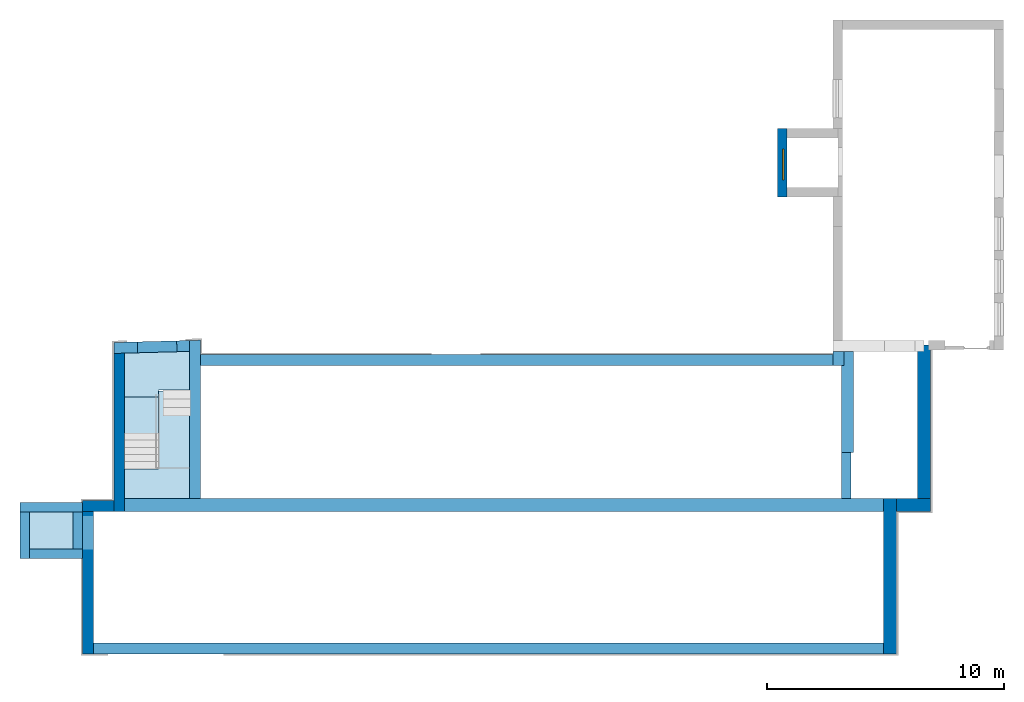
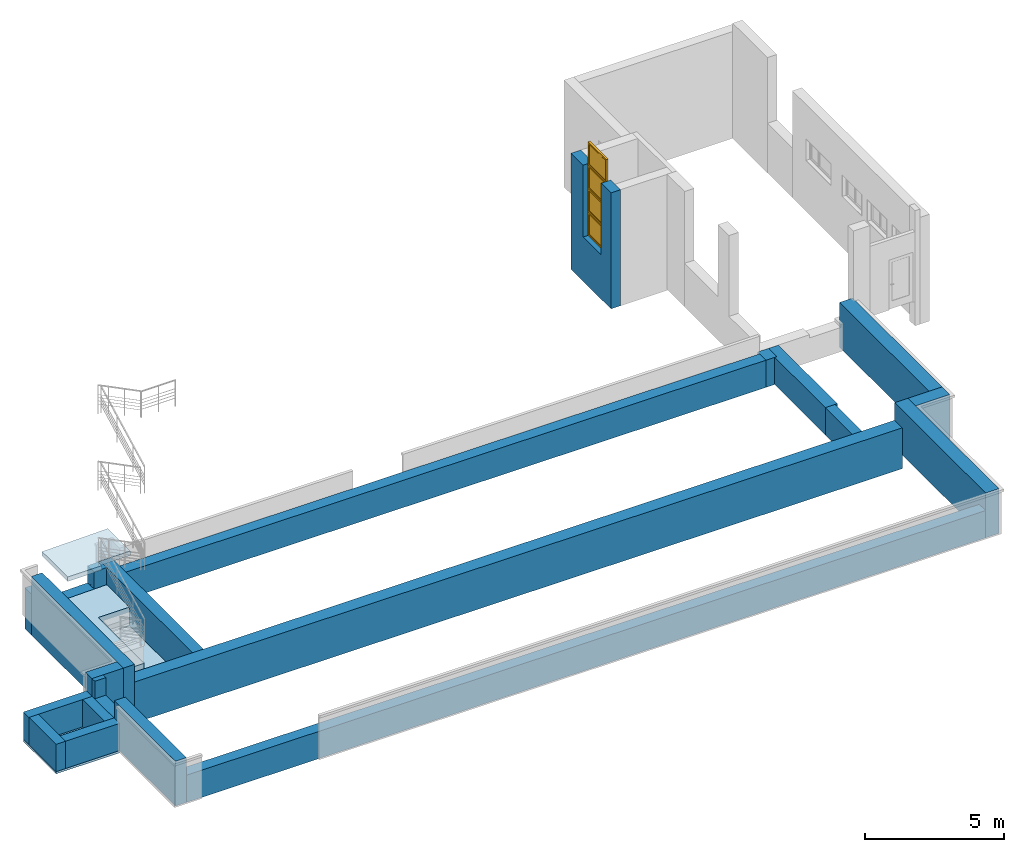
"""IFC2X3 building model written with IfcOpenShell, lengths in millimetres."""

import ifcopenshell
import ifcopenshell.guid

model = None  # the IFC model being written
_history = None  # IfcOwnerHistory: only IFC2X3 demands one
_inside = {}  # id of a spatial element -> (the spatial element, [elements in it])
_under = {}  # id of a project, library or spatial element -> (it, [spatial elements below it])
_declared = {}  # id of a project -> (the project, [libraries it declares])
_typed = {}  # id of a type object -> (the type object, [elements of that type])
_made_of = {}  # id of a material, layer set ... -> (it, [elements and type objects made of it])


def new_model(schema):
    """Start an empty IFC model of exactly this schema.

    Asked for "IFC4X3", IfcOpenShell would pick the latest addendum, in which some entities
    have other attributes; the version numbers below select the first issue.
    IFC2X3 requires an IfcOwnerHistory on every rooted entity: one is made here for all.
    """
    global model, _history
    if schema == "IFC4X3":
        model = ifcopenshell.file(schema_version=(4, 3, 0, 0))
    else:
        model = ifcopenshell.file(schema=schema)
    _inside.clear()
    _under.clear()
    _declared.clear()
    _typed.clear()
    _made_of.clear()
    _history = None
    if model.schema == "IFC2X3":
        org = make("IfcOrganization", Name="unknown")
        user = make(
            "IfcPersonAndOrganization",
            ThePerson=make("IfcPerson", FamilyName="unknown"),
            TheOrganization=org,
        )
        app = make(
            "IfcApplication",
            ApplicationDeveloper=org,
            Version="unknown",
            ApplicationFullName="unknown",
            ApplicationIdentifier="unknown",
        )
        _history = make(
            "IfcOwnerHistory",
            OwningUser=user,
            OwningApplication=app,
            ChangeAction="ADDED",
            CreationDate=0,
        )
    return model


def make(cls, **values):
    """One entity of the class cls with the attributes given. An attribute that is None is left unset."""
    return model.create_entity(
        cls, **{name: value for name, value in values.items() if value is not None}
    )


def entity(cls, *values):
    """Any entity or typed value of the class cls, its attributes in the order of the schema. None: left unset."""
    e = model.create_entity(cls)
    for i, value in enumerate(values):
        if value is not None:
            e[i] = value
    return e


def rooted(cls, **values):
    """An entity with a GlobalId (a new one), such as an element, a storey or a relation."""
    return make(cls, GlobalId=ifcopenshell.guid.new(), OwnerHistory=_history, **values)


def si_unit(unit_type, name, prefix=None):
    """IfcSIUnit, for example si_unit("LENGTHUNIT", "METRE", prefix="MILLI")."""
    return make("IfcSIUnit", UnitType=unit_type, Prefix=prefix, Name=name)


def converted_unit(unit_type, name, factor, base, dimensions=None, offset=None):
    """IfcConversionBasedUnit, such as the inch: factor (a typed value) times the base unit."""
    return make(
        "IfcConversionBasedUnit"
        if offset is None
        else "IfcConversionBasedUnitWithOffset",
        ConversionOffset=offset,
        Dimensions=None
        if dimensions is None
        else entity("IfcDimensionalExponents", *dimensions),
        UnitType=unit_type,
        Name=name,
        ConversionFactor=make(
            "IfcMeasureWithUnit", ValueComponent=factor, UnitComponent=base
        ),
    )


def derived_unit(unit_type, elements):
    """IfcDerivedUnit: a product of units, each with its exponent."""
    return make(
        "IfcDerivedUnit",
        Elements=[
            make("IfcDerivedUnitElement", Unit=unit, Exponent=power)
            for unit, power in elements
        ],
        UnitType=unit_type,
    )


def assignment(units):
    """IfcUnitAssignment: the units of a project."""
    return None if units is None else make("IfcUnitAssignment", Units=units)


def point(xyz):
    """IfcCartesianPoint."""
    return None if xyz is None else make("IfcCartesianPoint", Coordinates=xyz)


def direction(xyz):
    """IfcDirection."""
    return None if xyz is None else make("IfcDirection", DirectionRatios=xyz)


def frame(location, z_axis=None, x_axis=None):
    """IfcAxis2Placement3D, a coordinate frame: its origin and axes. An axis left out is left unset."""
    return make(
        "IfcAxis2Placement3D",
        Location=point(location),
        Axis=direction(z_axis),
        RefDirection=direction(x_axis),
    )


def frame_2d(location, x_axis=None):
    """IfcAxis2Placement2D, a coordinate frame in the plane: its origin and x axis."""
    return make(
        "IfcAxis2Placement2D", Location=point(location), RefDirection=direction(x_axis)
    )


def origin():
    """The frame at (0, 0, 0) with its axes left unset."""
    return frame((0.0, 0.0, 0.0))


def origin_2d_with_axis():
    """The frame at (0, 0) in the plane with the x axis (1, 0) written out."""
    return frame_2d((0.0, 0.0), x_axis=(1.0, 0.0))


def place(relative_to, where):
    """IfcLocalPlacement: puts the frame where relative to a parent placement (None: the world)."""
    return make(
        "IfcLocalPlacement", PlacementRelTo=relative_to, RelativePlacement=where
    )


def context(
    kind, dimensions, precision=None, world=None, true_north=None, identifier=None
):
    """IfcGeometricRepresentationContext, for example the 3D "Model" context."""
    return make(
        "IfcGeometricRepresentationContext",
        ContextIdentifier=identifier,
        ContextType=kind,
        CoordinateSpaceDimension=dimensions,
        Precision=precision,
        WorldCoordinateSystem=world,
        TrueNorth=true_north,
    )


def subcontext(parent, identifier, kind, view, scale=None):
    """IfcGeometricRepresentationSubContext, for example "Body" below "Model"."""
    return make(
        "IfcGeometricRepresentationSubContext",
        ContextIdentifier=identifier,
        ContextType=kind,
        ParentContext=parent,
        TargetScale=scale,
        TargetView=view,
    )


def project(units=None, contexts=None):
    """IfcProject with its units and contexts."""
    return rooted(
        "IfcProject",
        Name="project",
        RepresentationContexts=contexts,
        UnitsInContext=assignment(units),
    )


def spatial(cls, under=None, at=None, **own):
    """A site, building, storey or space (cls), placed at a placement, below another one or the project."""
    s = rooted(cls, ObjectPlacement=at, **own)
    if under is not None:
        _under.setdefault(under.id(), (under, []))[1].append(s)
    return s


def polyline(points):
    """IfcPolyline through the points."""
    return make("IfcPolyline", Points=[point(p) for p in points])


def profile(cls, at=None, kind="AREA", **sizes):
    """A parametric profile (cls). Its sizes go by their IFC names, for example OverallWidth=200.0."""
    return make(cls, ProfileType=kind, Position=at, **sizes)


def rectangle(**sizes):
    """IfcRectangleProfileDef."""
    return profile("IfcRectangleProfileDef", **sizes)


def outline(outer, holes=None, kind="AREA"):
    """IfcArbitraryClosedProfileDef: a profile drawn as a closed curve; with holes, ...WithVoids."""
    if holes is None:
        return make("IfcArbitraryClosedProfileDef", ProfileType=kind, OuterCurve=outer)
    return make(
        "IfcArbitraryProfileDefWithVoids",
        ProfileType=kind,
        OuterCurve=outer,
        InnerCurves=holes,
    )


def extrude(swept, where, along, depth):
    """IfcExtrudedAreaSolid: the profile swept, set in the frame where, extruded along a direction by depth."""
    return make(
        "IfcExtrudedAreaSolid",
        SweptArea=swept,
        Position=where,
        ExtrudedDirection=direction(along),
        Depth=depth,
    )


def faces_of(points, faces, orient=None, outer=None):
    """IfcFace entities. A face is a list of loops; a loop is a list of indices into points, from 0.

    orient and outer hold one flag for each loop. By default every Orientation is true, the
    first loop of a face is its IfcFaceOuterBound and the others are IfcFaceBound.
    """
    made = []
    for i, loops in enumerate(faces):
        bounds = []
        for j, loop in enumerate(loops):
            is_outer = j == 0 if outer is None else outer[i][j]
            bounds.append(
                make(
                    "IfcFaceOuterBound" if is_outer else "IfcFaceBound",
                    Bound=make("IfcPolyLoop", Polygon=[points[k] for k in loop]),
                    Orientation=True if orient is None else orient[i][j],
                )
            )
        made.append(make("IfcFace", Bounds=bounds))
    return made


def faceted_brep(points, faces, orient=None, outer=None, voids=None):
    """IfcFacetedBrep: a solid bounded by flat faces; with voids (closed shells), ...WithVoids."""
    shared = [point(p) for p in points]
    hull = make("IfcClosedShell", CfsFaces=faces_of(shared, faces, orient, outer))
    if voids is None:
        return make("IfcFacetedBrep", Outer=hull)
    return make(
        "IfcFacetedBrepWithVoids",
        Outer=hull,
        Voids=[
            make(cls, CfsFaces=faces_of(shared, fs, o, b)) for cls, fs, o, b in voids
        ],
    )


def shape(context_of_items, identifier, shape_type, items):
    """IfcShapeRepresentation: the items that make up one representation, for example the "Body"."""
    return make(
        "IfcShapeRepresentation",
        ContextOfItems=context_of_items,
        RepresentationIdentifier=identifier,
        RepresentationType=shape_type,
        Items=items,
    )


def source(mapping_origin, context_of_items, identifier, shape_type, items):
    """IfcRepresentationMap: a shape defined once, which mapped items show again and again."""
    return make(
        "IfcRepresentationMap",
        MappingOrigin=mapping_origin,
        MappedRepresentation=shape(context_of_items, identifier, shape_type, items),
    )


def transform(
    local_origin,
    x_axis=None,
    y_axis=None,
    z_axis=None,
    scale=None,
    scale2=None,
    scale3=None,
    uniform=True,
):
    """IfcCartesianTransformationOperator3D, or its non-uniform kind. x_axis, y_axis, z_axis: its Axis1, 2, 3."""
    if uniform:
        return make(
            "IfcCartesianTransformationOperator3D",
            Axis1=direction(x_axis),
            Axis2=direction(y_axis),
            LocalOrigin=point(local_origin),
            Scale=scale,
            Axis3=direction(z_axis),
        )
    return make(
        "IfcCartesianTransformationOperator3DnonUniform",
        Axis1=direction(x_axis),
        Axis2=direction(y_axis),
        LocalOrigin=point(local_origin),
        Scale=scale,
        Axis3=direction(z_axis),
        Scale2=scale2,
        Scale3=scale3,
    )


def mapped(mapping_source, mapping_target):
    """IfcMappedItem: shows the shape of a source again, moved by a transform."""
    return make(
        "IfcMappedItem", MappingSource=mapping_source, MappingTarget=mapping_target
    )


def material(Name=None, Category=None):
    """IfcMaterial."""
    return make("IfcMaterial", Name=Name, Category=Category)


def material_list(materials):
    """IfcMaterialList."""
    return make("IfcMaterialList", Materials=materials)


def layer(
    of_material, thickness, ventilated=None, Name=None, Category=None, Priority=None
):
    """IfcMaterialLayer: one layer of a wall or slab, of a material (None: an air gap)."""
    return make(
        "IfcMaterialLayer",
        Material=of_material,
        LayerThickness=thickness,
        IsVentilated=ventilated,
        Name=Name,
        Category=Category,
        Priority=Priority,
    )


def layer_set(layers, Name=None):
    """IfcMaterialLayerSet."""
    return make("IfcMaterialLayerSet", MaterialLayers=layers, LayerSetName=Name)


def layer_usage(for_layer_set, set_direction, sense, offset, extent=None):
    """IfcMaterialLayerSetUsage: how a layer set lies in its element."""
    return make(
        "IfcMaterialLayerSetUsage",
        ForLayerSet=for_layer_set,
        LayerSetDirection=set_direction,
        DirectionSense=sense,
        OffsetFromReferenceLine=offset,
        ReferenceExtent=extent,
    )


def made_of(thing, what):
    """Note that an element or type object is made of a material, layer set ...; save() writes the relation."""
    if what is not None:
        _made_of.setdefault(what.id(), (what, []))[1].append(thing)
    return thing


def type_object(cls, material=None, **own):
    """A type object (cls), such as IfcWallType, which elements share."""
    return made_of(rooted(cls, **own), material)


def type_shapes(of_type, sources):
    """Give a type object the sources (RepresentationMaps) that its elements show as mapped items."""
    of_type.RepresentationMaps = sources


def element(
    cls,
    number,
    at=None,
    inside=None,
    cuts=None,
    type_object=None,
    material=None,
    context=None,
    identifier="Body",
    shape_type=None,
    held_by="IfcProductDefinitionShape",
    body=None,
    shapes=None,
    **own,
):
    """One element of the class cls, such as IfcWall. Its Tag is "e" and its number.

    at: its placement. inside: the storey or other place that contains it. cuts: it is an
    opening in that element (IfcRelVoidsElement). A single representation is given by context,
    identifier, shape_type and body (its items); several are given by shapes. held_by: the class
    of the entity that holds the representations. save() writes the other relations.
    """
    e = rooted(cls, Tag="e%d" % number, ObjectPlacement=at, **own)
    if body is not None:
        shapes = [shape(context, identifier, shape_type, body)]
    if shapes is not None:
        e.Representation = make(held_by, Representations=shapes)
    if inside is not None:
        _inside.setdefault(inside.id(), (inside, []))[1].append(e)
    if cuts is not None:
        rooted(
            "IfcRelVoidsElement", RelatingBuildingElement=cuts, RelatedOpeningElement=e
        )
    if type_object is not None:
        _typed.setdefault(type_object.id(), (type_object, []))[1].append(e)
    return made_of(e, material)


def fill(opening, filler):
    """IfcRelFillsElement: the door or window that sits in an opening."""
    return rooted(
        "IfcRelFillsElement",
        RelatingOpeningElement=opening,
        RelatedBuildingElement=filler,
    )


def aggregate(whole, parts):
    """IfcRelAggregates: a whole, such as a stair, and the parts it consists of."""
    return rooted("IfcRelAggregates", RelatingObject=whole, RelatedObjects=parts)


def save(model, path):
    """Write the relations noted so far, then the file.

    IfcRelAggregates (storeys below a building ...), IfcRelContainedInSpatialStructure (elements
    in a storey), IfcRelDefinesByType, IfcRelAssociatesMaterial and IfcRelDeclares: one each for
    every whole, place, type object, material and project.
    """
    for whole, parts in _under.values():
        aggregate(whole, parts)
    for where, things in _inside.values():
        rooted(
            "IfcRelContainedInSpatialStructure",
            RelatedElements=things,
            RelatingStructure=where,
        )
    for kind, things in _typed.values():
        rooted("IfcRelDefinesByType", RelatedObjects=things, RelatingType=kind)
    for what, things in _made_of.values():
        rooted("IfcRelAssociatesMaterial", RelatedObjects=things, RelatingMaterial=what)
    for by, libraries in _declared.values():
        rooted("IfcRelDeclares", RelatingContext=by, RelatedDefinitions=libraries)
    model.write(path)


model = new_model("IFC2X3")

# Units and contexts
model_context = context("Model", 3, precision=0.01, world=origin(), true_north=direction((6.12303176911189e-17, 1.0)))
body_context = subcontext(model_context, "Body", "Model", "MODEL_VIEW")
ifc_project = project(units=[si_unit("LENGTHUNIT", "METRE", prefix="MILLI"), si_unit("AREAUNIT", "SQUARE_METRE"), si_unit("VOLUMEUNIT", "CUBIC_METRE"), converted_unit("PLANEANGLEUNIT", "DEGREE", entity("IfcRatioMeasure", 0.0174532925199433), si_unit("PLANEANGLEUNIT", "RADIAN"), dimensions=[0, 0, 0, 0, 0, 0, 0]), si_unit("MASSUNIT", "GRAM", prefix="KILO"), derived_unit("MASSDENSITYUNIT", [(si_unit("MASSUNIT", "GRAM", prefix="KILO"), 1), (si_unit("LENGTHUNIT", "METRE"), -3)]), si_unit("TIMEUNIT", "SECOND"), si_unit("FREQUENCYUNIT", "HERTZ"), si_unit("THERMODYNAMICTEMPERATUREUNIT", "DEGREE_CELSIUS"), derived_unit("THERMALTRANSMITTANCEUNIT", [(si_unit("MASSUNIT", "GRAM", prefix="KILO"), 1), (si_unit("THERMODYNAMICTEMPERATUREUNIT", "KELVIN"), -1), (si_unit("TIMEUNIT", "SECOND"), -3)]), derived_unit("VOLUMETRICFLOWRATEUNIT", [(si_unit("LENGTHUNIT", "METRE"), 3), (si_unit("TIMEUNIT", "SECOND"), -1)]), si_unit("ELECTRICCURRENTUNIT", "AMPERE"), si_unit("ELECTRICVOLTAGEUNIT", "VOLT"), si_unit("POWERUNIT", "WATT"), si_unit("FORCEUNIT", "NEWTON", prefix="KILO"), si_unit("ILLUMINANCEUNIT", "LUX"), si_unit("LUMINOUSFLUXUNIT", "LUMEN"), si_unit("LUMINOUSINTENSITYUNIT", "CANDELA"), derived_unit("USERDEFINED", [(si_unit("MASSUNIT", "GRAM", prefix="KILO"), -1), (si_unit("LENGTHUNIT", "METRE"), -2), (si_unit("TIMEUNIT", "SECOND"), 3), (si_unit("LUMINOUSFLUXUNIT", "LUMEN"), 1)]), derived_unit("LINEARVELOCITYUNIT", [(si_unit("LENGTHUNIT", "METRE"), 1), (si_unit("TIMEUNIT", "SECOND"), -1)]), si_unit("PRESSUREUNIT", "PASCAL"), derived_unit("USERDEFINED", [(si_unit("LENGTHUNIT", "METRE"), -2), (si_unit("MASSUNIT", "GRAM", prefix="KILO"), 1), (si_unit("TIMEUNIT", "SECOND"), -2)])], contexts=[model_context])

# Site, building, storey
site_placement = place(None, frame((-151.875543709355, 2715.0, 0.0)))
site = spatial("IfcSite", under=ifc_project, at=site_placement, Name="Surface", CompositionType="ELEMENT")
building_placement = place(site_placement, origin())
building = spatial("IfcBuilding", under=site, at=building_placement, CompositionType="ELEMENT")
storey_1_placement = place(building_placement, frame((0.0, 0.0, -1200.0)))
storey_1 = spatial("IfcBuildingStorey", under=building, at=storey_1_placement, Name="Vundament", CompositionType="ELEMENT", Elevation=-1199.99999999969)

# Slabs
ifc_material_1 = material(Name="Betoonplaat")
ifc_layer_1 = layer(ifc_material_1, 195.0)
ifc_layer_set_1 = layer_set([ifc_layer_1], Name="Floor:Trepimade3")
ifc_layer_usage_1 = layer_usage(ifc_layer_set_1, "AXIS3", "POSITIVE", 0.0)
slab_1_placement = place(storey_1_placement, origin())
element("IfcSlab", 1, at=slab_1_placement, inside=storey_1, material=ifc_layer_usage_1, Name="Floor:Trepimade3", ObjectType="Floor:Trepimade3", PredefinedType="FLOOR", context=body_context, shape_type="SweptSolid", body=[
    extrude(outline(polyline([(-721.694663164, -1400.30014640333), (1121.029816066, -1400.30014640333), (1195.485642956, 1369.82529333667), (-436.563066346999, 1370.00631353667), (-436.563066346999, 30.3843429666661), (-721.694663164, 30.3843429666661), (-721.694663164, -1400.30014640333)])), frame((3170.30014640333, 11553.770926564, 2900.0), z_axis=(0.0, 0.0, -1.0), x_axis=(0.0, 1.0, 0.0)), (0.0, 0.0, 1.0), 195.0),
])
ifc_layer_2 = layer(ifc_material_1, 238.7)
ifc_layer_set_2 = layer_set([ifc_layer_2], Name="Floor:Olemasolev põrand pinnasel")
ifc_layer_usage_2 = layer_usage(ifc_layer_set_2, "AXIS3", "POSITIVE", 0.0)
slab_2_placement = place(storey_1_placement, origin())
element("IfcSlab", 2, at=slab_2_placement, inside=storey_1, material=ifc_layer_usage_2, Name="Floor:Olemasolev põrand pinnasel", ObjectType="Floor:Olemasolev põrand pinnasel", PredefinedType="FLOOR", context=body_context, shape_type="SweptSolid", body=[
    extrude(outline(polyline([(-2264.77980270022, -1365.28036394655), (2264.80531336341, -1365.28036394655), (2264.80531336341, 1365.02915954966), (-2264.8308240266, 1365.53156834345), (-2264.77980270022, -1365.28036394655)])), frame((3135.28036394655, 8824.77980269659, -361.285495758), z_axis=(0.0, 0.0, -1.0), x_axis=(0.0, 1.0, 0.0)), (0.0, 0.0, 1.0), 238.7),
])
ifc_material_2 = material(Name="Betoon")
ifc_layer_3 = layer(ifc_material_2, 807.1)
ifc_layer_set_3 = layer_set([ifc_layer_3], Name="Floor:Tuulekoja põrand")
ifc_layer_usage_3 = layer_usage(ifc_layer_set_3, "AXIS3", "POSITIVE", 0.0)
slab_3_placement = place(storey_1_placement, origin())
element("IfcSlab", 3, at=slab_3_placement, inside=storey_1, material=ifc_layer_usage_3, Name="Floor:Tuulekoja põrand", ObjectType="Floor:Tuulekoja põrand", PredefinedType="FLOOR", context=body_context, shape_type="SweptSolid", body=[
    extrude(outline(polyline([(-2743.41895913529, -1388.00415105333), (2132.16074470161, -1388.00415105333), (2205.54144907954, 1342.12140769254), (574.567862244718, 1342.30230864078), (574.567862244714, 45.7922928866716), (-2743.41895913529, 45.7922928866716), (-2743.41895913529, -1388.00415105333)])), frame((3158.00415105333, 10542.6399979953, 445.835781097), z_axis=(0.0, 0.0, -1.0), x_axis=(0.0, 1.0, 0.0)), (0.0, 0.0, 1.0), 807.1),
])
ifc_layer_4 = layer(ifc_material_2, 100.0)
ifc_layer_set_4 = layer_set([ifc_layer_4], Name="Floor:Lifti põrand")
ifc_layer_usage_4 = layer_usage(ifc_layer_set_4, "AXIS3", "POSITIVE", 0.0)
slab_4_placement = place(storey_1_placement, origin())
element("IfcSlab", 4, at=slab_4_placement, inside=storey_1, material=ifc_layer_usage_4, Name="Floor:Lifti põrand", ObjectType="Floor:Lifti põrand", PredefinedType="FLOOR", context=body_context, shape_type="SweptSolid", body=[
    extrude(rectangle(XDim=2360.0, YDim=2640.04691455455, at=origin_2d_with_axis()), frame((-1320.10099722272, 5211.05917364, 0.0), z_axis=(0.0, 0.0, -1.0), x_axis=(0.0, 1.0, 0.0)), (0.0, 0.0, 1.0), 100.0),
])

# Wall, openings
ifc_material_3 = material(Name="Brick, Common")
ifc_layer_5 = layer(ifc_material_3, 440.0)
ifc_material_4 = material(Name="__Kips GN13_tava")
ifc_layer_6 = layer(ifc_material_4, 20.0)
ifc_layer_set_5 = layer_set([ifc_layer_5, ifc_layer_6], Name="Basic Wall:VS-1")
ifc_layer_usage_5 = layer_usage(ifc_layer_set_5, "AXIS2", "NEGATIVE", 230.0)
wall_type_1 = type_object("IfcWallType", Name="Basic Wall:VS-1", PredefinedType="STANDARD", material=ifc_layer_set_5)
wall_1_placement = place(storey_1_placement, frame((1303.82025900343, 12892.3537620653, -600.0), z_axis=(0.0, 0.0, 1.0), x_axis=(0.999638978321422, 0.0268684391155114, 0.0)))
wall_1 = element("IfcWallStandardCase", 5, at=wall_1_placement, inside=storey_1, type_object=wall_type_1, material=ifc_layer_usage_5, Name="SEIN - 006", ObjectType="Basic Wall:VS-1", context=body_context, shape_type="SweptSolid", body=[
    extrude(outline(polyline([(3191.2776791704, -230.0), (3203.59056678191, 230.0), (12.3639456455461, 230.0), (0.0, -230.0), (460.166129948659, -230.0), (3191.2776791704, -230.0)])), origin(), (0.0, 0.0, 1.0), 1800.0),
])
opening_1_placement = place(wall_1_placement, origin())
element("IfcOpeningElement", 6, at=opening_1_placement, cuts=wall_1, Name="SEIN - 006", ObjectType="Opening", context=body_context, shape_type="SweptSolid", body=[
    extrude(rectangle(XDim=2090.64443588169, YDim=1656.33689788, at=frame_2d((0.0, 2.8421709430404e-13), x_axis=(1.0, 0.0))), frame((1834.67802653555, -530.0, 2140.32221794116), z_axis=(0.0, 1.0, 0.0), x_axis=(0.0, 0.0, 1.0)), (0.0, 0.0, 1.0), 1220.0),
])
opening_2_placement = place(wall_1_placement, origin())
element("IfcOpeningElement", 7, at=opening_2_placement, cuts=wall_1, Name="SEIN - 006", ObjectType="Opening", context=body_context, shape_type="SweptSolid", body=[
    extrude(rectangle(XDim=2139.99999999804, YDim=1655.0, at=frame_2d((-2.8421709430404e-13, 0.0), x_axis=(0.0, 1.0))), frame((1834.67802653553, -1754.0, 2116.0), z_axis=(0.0, 1.0, 0.0), x_axis=(-1.0, 0.0, 0.0)), (0.0, 0.0, 1.0), 3048.0),
])

# Walls
ifc_layer_usage_6 = layer_usage(ifc_layer_set_5, "AXIS2", "NEGATIVE", 230.0)
wall_2_placement = place(storey_1_placement, frame((-0.124454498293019, 6240.0, 0.0)))
element("IfcWallStandardCase", 8, at=wall_2_placement, inside=storey_1, type_object=wall_type_1, material=ifc_layer_usage_6, Name="SEIN - 004", ObjectType="Basic Wall:VS-1", context=body_context, shape_type="SweptSolid", body=[
    extrude(rectangle(XDim=1310.12445449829, YDim=459.999999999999, at=frame_2d((655.062227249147, 0.0), x_axis=(-1.0, 0.0))), origin(), (0.0, 0.0, 1.0), 1974.905460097),
])
ifc_layer_usage_7 = layer_usage(ifc_layer_set_5, "AXIS2", "NEGATIVE", 230.0)
wall_3_placement = place(storey_1_placement, frame((1540.0, 6010.0, -600.0), z_axis=(0.0, 0.0, 1.0), x_axis=(0.0, 1.0, 0.0)))
element("IfcWallStandardCase", 9, at=wall_3_placement, inside=storey_1, type_object=wall_type_1, material=ifc_layer_usage_7, Name="SEIN - 005", ObjectType="Basic Wall:VS-1", context=body_context, shape_type="SweptSolid", body=[
    extrude(outline(polyline([(6664.80074269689, -230.0), (6652.43679705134, 230.0), (0.0, 230.0), (0.0, -230.0), (6664.80074269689, -230.0)])), origin(), (0.0, 0.0, 1.0), 2574.905460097),
])
ifc_layer_usage_8 = layer_usage(ifc_layer_set_5, "AXIS2", "NEGATIVE", 230.0)
wall_4_placement = place(storey_1_placement, frame((4730.07315203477, 13220.6846033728, -600.0), z_axis=(0.0, 0.0, 1.0), x_axis=(0.000110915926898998, -0.999999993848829, 0.0)))
element("IfcWallStandardCase", 10, at=wall_4_placement, inside=storey_1, type_object=wall_type_1, material=ifc_layer_usage_8, Name="SEIN - 007", ObjectType="Basic Wall:VS-1", context=body_context, shape_type="SweptSolid", body=[
    extrude(outline(polyline([(6660.65913368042, -230.0), (6660.71015500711, 230.0), (0.0, 230.0), (12.3128876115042, -230.0), (472.477648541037, -230.0), (6660.65913368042, -230.0)])), origin(), (0.0, 0.0, 1.0), 1800.0),
])
ifc_layer_usage_9 = layer_usage(ifc_layer_set_5, "AXIS2", "NEGATIVE", 230.0)
wall_5_placement = place(storey_1_placement, frame((4960.14088809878, 12380.0, 0.0)))
element("IfcWallStandardCase", 11, at=wall_5_placement, inside=storey_1, type_object=wall_type_1, material=ifc_layer_usage_9, Name="SEIN - 008", ObjectType="Basic Wall:VS-1", context=body_context, shape_type="SweptSolid", body=[
    extrude(outline(polyline([(26642.4753801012, -230.0), (26642.4753801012, 230.0), (0.0, 230.0), (0.0510213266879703, -230.0), (26642.4753801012, -230.0)])), origin(), (0.0, 0.0, 1.0), 1200.0),
])
ifc_layer_usage_10 = layer_usage(ifc_layer_set_5, "AXIS2", "NEGATIVE", 230.0)
wall_6_placement = place(storey_1_placement, frame((31832.6162682, 12150.0, 0.0), z_axis=(0.0, 0.0, 1.0), x_axis=(0.0, 1.0, 0.0)))
element("IfcWallStandardCase", 12, at=wall_6_placement, inside=storey_1, type_object=wall_type_1, material=ifc_layer_usage_10, Name="SEIN - 009", ObjectType="Basic Wall:VS-1", context=body_context, shape_type="SweptSolid", body=[
    extrude(rectangle(XDim=600.0, YDim=459.999999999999, at=frame_2d((300.0, 0.0), x_axis=(-1.0, 0.0))), origin(), (0.0, 0.0, 1.0), 1200.0),
])
ifc_layer_usage_11 = layer_usage(ifc_layer_set_5, "AXIS2", "NEGATIVE", 230.0)
wall_7_placement = place(storey_1_placement, frame((33741.6169076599, 229.906189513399, 0.0), z_axis=(0.0, 0.0, 1.0), x_axis=(-1.0, 2.78026058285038e-06, 0.0)))
element("IfcWallStandardCase", 13, at=wall_7_placement, inside=storey_1, type_object=wall_type_1, material=ifc_layer_usage_11, Name="SEIN - 014", ObjectType="Basic Wall:VS-1", context=body_context, shape_type="SweptSolid", body=[
    extrude(rectangle(XDim=33281.6263955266, YDim=460.0, at=frame_2d((16640.8131977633, 1.4210854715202e-14), x_axis=(-1.0, 0.0))), origin(), (0.0, 0.0, 1.0), 1200.0),
])

# Wall, opening
ifc_layer_usage_12 = layer_usage(ifc_layer_set_5, "AXIS2", "NEGATIVE", 230.0)
wall_8_placement = place(storey_1_placement, frame((230.0, -0.00570311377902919, 0.0), z_axis=(0.0, 0.0, 1.0), x_axis=(-1.92356256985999e-05, 1.0, 0.0)))
wall_8 = element("IfcWallStandardCase", 14, at=wall_8_placement, inside=storey_1, type_object=wall_type_1, material=ifc_layer_usage_12, Name="SEIN - 015", ObjectType="Basic Wall:VS-1", context=body_context, shape_type="SweptSolid", body=[
    extrude(outline(polyline([(6010.00128003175, -230.0), (6010.01012841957, 230.0), (5991.06930205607, 230.0), (4431.06930176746, 230.0), (4031.06930169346, 230.0), (0.010127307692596, 230.0), (0.0, -230.0), (460.0, -230.0), (6010.00128003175, -230.0)])), origin(), (0.0, 0.0, 1.0), 1974.905460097),
])
opening_3_placement = place(wall_8_placement, origin())
element("IfcOpeningElement", 15, at=opening_3_placement, cuts=wall_8, Name="SEIN - 015", ObjectType="Opening", context=body_context, shape_type="SweptSolid", body=[
    extrude(rectangle(XDim=774.905460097, YDim=1410.53729119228, at=frame_2d((0.0, 5.6843418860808e-13), x_axis=(1.0, 0.0))), frame((5106.52691541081, -230.0, 1587.4527300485), z_axis=(0.0, 1.0, 0.0), x_axis=(0.0, 0.0, -1.0)), (0.0, 0.0, 1.0), 460.0),
])

# Walls
ifc_material_5 = material(Name="__Hall krohv")
ifc_layer_7 = layer(ifc_material_5, 10.0)
ifc_material_6 = material(Name="Tellis")
ifc_layer_8 = layer(ifc_material_6, 380.0)
ifc_layer_9 = layer(ifc_material_5, 10.0)
ifc_layer_set_6 = layer_set([ifc_layer_7, ifc_layer_8, ifc_layer_9], Name="Basic Wall:SS-01_ol.olev tellissein400")
ifc_layer_usage_13 = layer_usage(ifc_layer_set_6, "AXIS2", "NEGATIVE", 200.0)
wall_type_2 = type_object("IfcWallType", Name="Basic Wall:SS-01_ol.olev tellissein400", PredefinedType="STANDARD", material=ifc_layer_set_6)
wall_9_placement = place(storey_1_placement, frame((32172.6162682, 6560.0, 0.0), z_axis=(0.0, 0.0, 1.0), x_axis=(0.0, 1.0, 0.0)))
element("IfcWallStandardCase", 16, at=wall_9_placement, inside=storey_1, type_object=wall_type_2, material=ifc_layer_usage_13, Name="SEIN - 003", ObjectType="Basic Wall:SS-01_ol.olev tellissein400", context=body_context, shape_type="SweptSolid", body=[
    extrude(rectangle(XDim=1938.10409546, YDim=400.000000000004, at=frame_2d((969.05204773, 0.0), x_axis=(-1.0, 0.0))), origin(), (0.0, 0.0, 1.0), 1200.0),
])
ifc_layer_usage_14 = layer_usage(ifc_layer_set_6, "AXIS2", "NEGATIVE", 200.0)
wall_10_placement = place(storey_1_placement, frame((-2640.1244545, 6191.05917364, 0.0)))
element("IfcWallStandardCase", 17, at=wall_10_placement, inside=storey_1, type_object=wall_type_2, material=ifc_layer_usage_14, Name="SEIN - 005", ObjectType="Basic Wall:SS-01_ol.olev tellissein400", context=body_context, shape_type="SweptSolid", body=[
    extrude(rectangle(XDim=2640.00921272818, YDim=400.0, at=frame_2d((1320.00460636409, 0.0), x_axis=(-1.0, 0.0))), origin(), (0.0, 0.0, 1.0), 1200.0),
])
ifc_layer_usage_15 = layer_usage(ifc_layer_set_6, "AXIS2", "NEGATIVE", 200.0)
wall_11_placement = place(storey_1_placement, frame((-2440.1244545, 4031.05917364, 0.0), z_axis=(0.0, 0.0, 1.0), x_axis=(0.0, 1.0, 0.0)))
element("IfcWallStandardCase", 18, at=wall_11_placement, inside=storey_1, type_object=wall_type_2, material=ifc_layer_usage_15, Name="SEIN - 006", ObjectType="Basic Wall:SS-01_ol.olev tellissein400", context=body_context, shape_type="SweptSolid", body=[
    extrude(rectangle(XDim=1960.0, YDim=400.0, at=frame_2d((980.0, 0.0), x_axis=(-1.0, 0.0))), origin(), (0.0, 0.0, 1.0), 1200.0),
])
ifc_layer_usage_16 = layer_usage(ifc_layer_set_6, "AXIS2", "NEGATIVE", 200.0)
wall_12_placement = place(storey_1_placement, frame((-0.077539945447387, 4231.05917364, 0.0), z_axis=(0.0, 0.0, 1.0), x_axis=(-1.0, 0.0, 0.0)))
element("IfcWallStandardCase", 19, at=wall_12_placement, inside=storey_1, type_object=wall_type_2, material=ifc_layer_usage_16, Name="SEIN - 007", ObjectType="Basic Wall:SS-01_ol.olev tellissein400", context=body_context, shape_type="SweptSolid", body=[
    extrude(rectangle(XDim=2240.04691455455, YDim=400.0, at=frame_2d((1120.02345727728, 0.0), x_axis=(-1.0, 0.0))), origin(), (0.0, 0.0, 1.0), 1200.0),
])
ifc_layer_usage_17 = layer_usage(ifc_layer_set_6, "AXIS2", "NEGATIVE", 200.0)
wall_13_placement = place(storey_1_placement, frame((-199.985434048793, 4431.05917364, 0.0), z_axis=(0.0, 0.0, 1.0), x_axis=(0.0, 1.0, 0.0)))
element("IfcWallStandardCase", 20, at=wall_13_placement, inside=storey_1, type_object=wall_type_2, material=ifc_layer_usage_17, Name="SEIN - 006", ObjectType="Basic Wall:SS-01_ol.olev tellissein400", context=body_context, shape_type="SweptSolid", body=[
    extrude(rectangle(XDim=1560.0, YDim=400.0, at=frame_2d((780.0, 0.0), x_axis=(-1.0, 0.0))), origin(), (0.0, 0.0, 1.0), 1200.0),
])
ifc_layer_10 = layer(ifc_material_4, 20.0)
ifc_material_7 = material(Name="Masonry - Brick")
ifc_layer_11 = layer(ifc_material_7, 510.0)
ifc_layer_12 = layer(ifc_material_4, 20.0)
ifc_layer_set_7 = layer_set([ifc_layer_10, ifc_layer_11, ifc_layer_12], Name="Basic Wall:SS-1")
ifc_layer_usage_18 = layer_usage(ifc_layer_set_7, "AXIS2", "NEGATIVE", 275.0)
wall_type_3 = type_object("IfcWallType", Name="Basic Wall:SS-1", PredefinedType="STANDARD", material=ifc_layer_set_7)
wall_14_placement = place(storey_1_placement, frame((33741.6162682, 6285.0, -600.0), z_axis=(0.0, 0.0, 1.0), x_axis=(-1.0, 0.0, 0.0)))
element("IfcWallStandardCase", 21, at=wall_14_placement, inside=storey_1, type_object=wall_type_3, material=ifc_layer_usage_18, Name="SEIN - 016", ObjectType="Basic Wall:SS-1", context=body_context, shape_type="SweptSolid", body=[
    extrude(rectangle(XDim=31971.6162682, YDim=550.000000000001, at=frame_2d((15985.8081341, 0.0), x_axis=(-1.0, 0.0))), origin(), (0.0, 0.0, 1.0), 1800.0),
])
ifc_material_8 = material(Name="GENEERILINE - KONSTRUKTRIOON")
ifc_layer_13 = layer(ifc_material_8, 500.0)
ifc_layer_set_8 = layer_set([ifc_layer_13], Name="Basic Wall:GENEERILINE - KONSTRUKTRIOON 500")
ifc_layer_usage_19 = layer_usage(ifc_layer_set_8, "AXIS2", "NEGATIVE", 250.0)
wall_type_4 = type_object("IfcWallType", Name="Basic Wall:GENEERILINE - KONSTRUKTRIOON 500", PredefinedType="STANDARD", material=ifc_layer_set_8)
wall_15_placement = place(storey_1_placement, frame((32222.6162682, 8498.10409546, 0.0), z_axis=(0.0, 0.0, 1.0), x_axis=(0.0, 1.0, 0.0)))
element("IfcWallStandardCase", 22, at=wall_15_placement, inside=storey_1, type_object=wall_type_4, material=ifc_layer_usage_19, Name="SEIN - 003", ObjectType="Basic Wall:GENEERILINE - KONSTRUKTRIOON 500", context=body_context, shape_type="SweptSolid", body=[
    extrude(rectangle(XDim=4251.89590454, YDim=499.999999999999, at=frame_2d((2125.94795227, 0.0), x_axis=(-1.0, 0.0))), origin(), (0.0, 0.0, 1.0), 1200.0),
])
ifc_layer_14 = layer(ifc_material_4, 20.0)
ifc_layer_15 = layer(ifc_material_7, 510.0)
ifc_layer_16 = layer(ifc_material_4, 20.0)
ifc_layer_set_9 = layer_set([ifc_layer_14, ifc_layer_15, ifc_layer_16], Name="Basic Wall:VS-01_Sokkel")
ifc_layer_usage_20 = layer_usage(ifc_layer_set_9, "AXIS2", "NEGATIVE", 275.0)
wall_type_5 = type_object("IfcWallType", Name="Basic Wall:VS-01_Sokkel", PredefinedType="STANDARD", material=ifc_layer_set_9)
wall_16_placement = place(storey_1_placement, frame((35446.6162682, 13014.5, 0.0), z_axis=(0.0, 0.0, 1.0), x_axis=(0.0, -1.0, 0.0)))
element("IfcWallStandardCase", 23, at=wall_16_placement, inside=storey_1, type_object=wall_type_5, material=ifc_layer_usage_20, Name="SEIN - 011", ObjectType="Basic Wall:VS-01_Sokkel", context=body_context, shape_type="SweptSolid", body=[
    extrude(rectangle(XDim=6454.49999999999, YDim=549.999999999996, at=frame_2d((3227.25, 0.0), x_axis=(-1.0, 0.0))), origin(), (0.0, 0.0, 1.0), 1974.905460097),
])
ifc_layer_usage_21 = layer_usage(ifc_layer_set_9, "AXIS2", "NEGATIVE", 275.0)
wall_17_placement = place(storey_1_placement, frame((35721.6162682, 6285.0, 0.0), z_axis=(0.0, 0.0, 1.0), x_axis=(-1.0, 0.0, 0.0)))
element("IfcWallStandardCase", 24, at=wall_17_placement, inside=storey_1, type_object=wall_type_5, material=ifc_layer_usage_21, Name="SEIN - 012", ObjectType="Basic Wall:VS-01_Sokkel", context=body_context, shape_type="SweptSolid", body=[
    extrude(rectangle(XDim=1430.0, YDim=550.000000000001, at=frame_2d((715.0, 0.0), x_axis=(-1.0, 0.0))), origin(), (0.0, 0.0, 1.0), 1974.905460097),
])
ifc_layer_usage_22 = layer_usage(ifc_layer_set_9, "AXIS2", "NEGATIVE", 275.0)
wall_18_placement = place(storey_1_placement, frame((34016.6162682, 6560.0, 0.0), z_axis=(0.0, 0.0, 1.0), x_axis=(0.0, -1.0, 0.0)))
element("IfcWallStandardCase", 25, at=wall_18_placement, inside=storey_1, type_object=wall_type_5, material=ifc_layer_usage_22, Name="SEIN - 013", ObjectType="Basic Wall:VS-01_Sokkel", context=body_context, shape_type="SweptSolid", body=[
    extrude(rectangle(XDim=6560.09533962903, YDim=549.999999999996, at=frame_2d((3280.04766981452, 0.0), x_axis=(-1.0, 0.0))), origin(), (0.0, 0.0, 1.0), 1974.905460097),
])

# Wall, openings
ifc_material_9 = material(Name="__Tuuletõkkeplaat")
ifc_layer_17 = layer(ifc_material_9, 9.0)
ifc_material_10 = material(Name="__Soojustus EPS")
ifc_layer_18 = layer(ifc_material_10, 200.0)
ifc_material_11 = material(Name="__Kergblokk")
ifc_layer_19 = layer(ifc_material_11, 190.0)
ifc_layer_set_10 = layer_set([ifc_layer_17, ifc_layer_18, ifc_layer_19], Name="Basic Wall:VS-2.2_Juurdeehituse välissein")
ifc_layer_usage_23 = layer_usage(ifc_layer_set_10, "AXIS2", "NEGATIVE", 199.5)
wall_type_6 = type_object("IfcWallType", Name="Basic Wall:VS-2.2_Juurdeehituse välissein", PredefinedType="STANDARD", material=ifc_layer_set_10)
wall_19_placement = place(storey_1_placement, frame((29462.1177671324, 19261.0, -35.0), z_axis=(0.0, 0.0, 1.0), x_axis=(0.0, 1.0, 0.0)))
wall_19 = element("IfcWallStandardCase", 26, at=wall_19_placement, inside=storey_1, type_object=wall_type_6, material=ifc_layer_usage_23, Name="Basic Wall:VS-2.2_Juurdeehituse välissein", ObjectType="Basic Wall:VS-2.2_Juurdeehituse välissein", context=body_context, shape_type="SweptSolid", body=[
    extrude(rectangle(XDim=2878.0, YDim=398.999999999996, at=frame_2d((1439.0, 6.11066752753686e-13), x_axis=(-1.0, 0.0))), origin(), (0.0, 0.0, 1.0), 5110.00000000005),
])
opening_4_placement = place(wall_19_placement, frame((709.0, -199.500000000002, 1950.00001442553)))
opening_4 = element("IfcOpeningElement", 27, at=opening_4_placement, cuts=wall_19, Name="lifti aken:liftiaken 2:1", ObjectType="Opening", context=body_context, shape_type="SweptSolid", body=[
    extrude(rectangle(XDim=1030.0, YDim=1300.0, at=frame_2d((515.0, 650.0), x_axis=(1.0, 0.0))), frame((0.0, 0.0, 0.0), z_axis=(0.0, 1.0, 0.0), x_axis=(0.0, 0.0, 1.0)), (0.0, 0.0, 1.0), 399.0),
])
opening_5_placement = place(wall_19_placement, frame((709.0, -199.500000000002, 4010.00004327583)))
opening_5 = element("IfcOpeningElement", 28, at=opening_5_placement, cuts=wall_19, Name="lifti aken:liftiaken 2:1", ObjectType="Opening", context=body_context, shape_type="SweptSolid", body=[
    extrude(rectangle(XDim=1030.0, YDim=1300.0, at=frame_2d((514.999999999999, 650.0), x_axis=(1.0, 0.0))), frame((0.0, 0.0, 0.0), z_axis=(0.0, 1.0, 0.0), x_axis=(0.0, 0.0, 1.0)), (0.0, 0.0, 1.0), 399.0),
])
opening_6_placement = place(wall_19_placement, frame((709.0, -199.500000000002, 5040.00005770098)))
opening_6 = element("IfcOpeningElement", 29, at=opening_6_placement, cuts=wall_19, Name="lifti aken:liftiaken 2:1", ObjectType="Opening", context=body_context, shape_type="SweptSolid", body=[
    extrude(rectangle(XDim=1030.0, YDim=1300.0, at=frame_2d((514.999999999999, 650.0), x_axis=(1.0, 0.0))), frame((0.0, 0.0, 0.0), z_axis=(0.0, 1.0, 0.0), x_axis=(0.0, 0.0, 1.0)), (0.0, 0.0, 1.0), 399.0),
])
opening_7_placement = place(wall_19_placement, frame((709.0, -199.500000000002, 2980.00002885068)))
opening_7 = element("IfcOpeningElement", 30, at=opening_7_placement, cuts=wall_19, Name="lifti aken:liftiaken 2:1", ObjectType="Opening", context=body_context, shape_type="SweptSolid", body=[
    extrude(rectangle(XDim=1030.0, YDim=1300.0, at=frame_2d((514.999999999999, 650.0), x_axis=(1.0, 0.0))), frame((0.0, 0.0, 0.0), z_axis=(0.0, 1.0, 0.0), x_axis=(0.0, 0.0, 1.0)), (0.0, 0.0, 1.0), 399.0),
])

# Storey
storey_2_placement = place(building_placement, origin())
storey_2 = spatial("IfcBuildingStorey", under=building, at=storey_2_placement, Name="1 korrus", CompositionType="ELEMENT", Elevation=3.0969999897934e-10)

# Window
ifc_material_12 = material(Name="Glass - Oknoplast - Glass")
ifc_material_13 = material(Name="Steel/Aluminium")
ifc_material_list_1 = material_list([ifc_material_12, ifc_material_13])
ifc_material_list_2 = material_list([ifc_material_12, ifc_material_13])
window_style = type_object("IfcWindowStyle", Name="liftiaken 2", ConstructionType="NOTDEFINED", OperationType="NOTDEFINED", ParameterTakesPrecedence=False, Sizeable=False, material=ifc_material_list_2)
shared_shape = source(origin(), body_context, "Body", "Brep", [
    faceted_brep([(58.0, 130.0, 58.0), (1242.0, 130.0, 58.0), (1242.0, 127.0, 58.0), (58.0, 127.0, 58.0), (58.0, 130.0, 972.0), (1242.0, 130.0, 972.0), (1242.0, 127.0, 972.0), (58.0, 127.0, 972.0)], [[[0, 1, 2, 3]], [[4, 5, 1, 0]], [[5, 6, 2, 1]], [[6, 7, 3, 2]], [[7, 4, 0, 3]], [[4, 7, 6, 5]]]),
    faceted_brep([(58.0, 171.0, 972.0), (1242.0, 171.0, 972.0), (1242.0, 171.0, 58.0), (58.0, 171.0, 58.0), (1242.0, 167.0, 972.0), (1242.0, 167.0, 58.0), (58.0, 167.0, 972.0), (58.0, 167.0, 58.0)], [[[0, 1, 2, 3]], [[1, 4, 5, 2]], [[4, 6, 7, 5]], [[6, 0, 3, 7]], [[0, 6, 4, 1]], [[3, 2, 5, 7]]]),
    faceted_brep([(58.0, 149.0, 972.0), (1242.0, 149.0, 972.0), (1242.0, 149.0, 58.0), (58.0, 149.0, 58.0), (1242.0, 146.0, 972.0), (1242.0, 146.0, 58.0), (58.0, 146.0, 972.0), (58.0, 146.0, 58.0)], [[[0, 1, 2, 3]], [[1, 4, 5, 2]], [[4, 6, 7, 5]], [[6, 0, 3, 7]], [[0, 6, 4, 1]], [[3, 2, 5, 7]]]),
    faceted_brep([(0.0, 189.999993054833, 1030.0), (0.0, 107.999987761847, 1030.0), (1300.0, 107.999987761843, 1030.0), (1300.0, 189.999993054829, 1030.0), (58.0, 127.0, 972.0), (58.0, 170.999989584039, 972.0), (1242.0, 170.999989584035, 972.0), (1242.0, 127.0, 972.0), (1300.0, 107.999987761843, 0.0), (1300.0, 189.999993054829, 0.0), (1242.0, 170.999989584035, 58.0), (1242.0, 127.0, 58.0), (0.0, 107.999987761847, 0.0), (0.0, 189.999993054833, 0.0), (58.0, 170.999989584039, 58.0), (58.0, 127.0, 58.0), (65.8684211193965, 189.999993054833, 65.8684211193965), (1234.1315788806, 189.999993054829, 65.8684211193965), (65.8684211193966, 189.999993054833, 964.131578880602), (1234.1315788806, 189.999993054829, 964.131578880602), (1227.0, 170.999989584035, 73.0), (73.0, 170.999989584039, 73.0), (1227.0, 170.999989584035, 957.0), (73.0, 170.999989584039, 957.0), (67.8684194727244, 189.46408449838, 962.131580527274), (1231.30315412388, 188.828410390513, 961.303154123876), (1230.26787883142, 187.03526076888, 960.267878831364), (69.7321211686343, 187.035260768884, 960.267878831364), (73.0, 174.839370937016, 957.0), (1227.0, 174.839370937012, 957.0), (73.0, 123.140867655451, 957.0), (73.0, 127.0, 957.0), (1227.0, 127.0, 957.0), (1227.0, 123.140867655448, 957.0), (1231.30315412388, 188.828410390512, 68.6968458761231), (1230.26787883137, 187.03526076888, 69.7321211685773), (1227.0, 174.839370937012, 73.0), (1227.0, 127.0, 73.0), (1227.0, 123.140867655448, 73.0), (68.696845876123, 188.828410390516, 68.6968458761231), (69.7321211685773, 187.035260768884, 69.7321211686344), (73.0, 174.839370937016, 73.0), (73.0, 127.0, 73.0), (73.0, 123.140867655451, 73.0), (67.8172078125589, 110.484175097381, 962.182792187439), (1232.18279218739, 110.484175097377, 962.182792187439), (66.7207028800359, 108.964666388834, 963.279297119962), (1234.06272749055, 108.438903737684, 964.062727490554), (1235.8844271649, 107.999995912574, 965.884427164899), (64.1155728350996, 107.999995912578, 965.884427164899), (1232.18279218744, 110.484175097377, 67.8172078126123), (1234.06272749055, 108.438903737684, 65.9372725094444), (1235.8844271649, 107.999995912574, 64.1155728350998), (67.8172078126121, 110.484175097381, 67.8172078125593), (65.9372725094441, 108.438903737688, 65.9372725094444), (64.1155728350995, 107.999995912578, 64.1155728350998)], [[[0, 1, 2, 3]], [[4, 5, 6, 7]], [[3, 2, 8, 9]], [[7, 6, 10, 11]], [[9, 8, 12, 13]], [[11, 10, 14, 15]], [[13, 12, 1, 0]], [[13, 16, 17]], [[16, 13, 18]], [[17, 9, 13]], [[0, 18, 13]], [[18, 0, 19]], [[3, 19, 0]], [[19, 3, 9]], [[9, 17, 19]], [[10, 20, 21]], [[20, 10, 22]], [[21, 14, 10]], [[6, 22, 10]], [[22, 6, 23]], [[5, 23, 6]], [[23, 5, 14]], [[14, 21, 23]], [[15, 14, 5, 4]], [[18, 19, 24]], [[24, 19, 25]], [[25, 26, 27]], [[25, 27, 24]], [[28, 27, 26, 29]], [[23, 28, 29, 22]], [[30, 31, 32, 33]], [[19, 17, 34, 25]], [[34, 35, 26, 25]], [[29, 26, 35, 36]], [[22, 29, 36, 20]], [[33, 32, 37, 38]], [[17, 16, 39, 34]], [[39, 40, 35, 34]], [[36, 35, 40, 41]], [[20, 36, 41, 21]], [[38, 37, 42, 43]], [[16, 18, 24]], [[16, 24, 39]], [[39, 27, 40]], [[27, 39, 24]], [[41, 40, 27, 28]], [[21, 41, 28, 23]], [[43, 42, 31, 30]], [[44, 30, 33, 45]], [[44, 45, 46]], [[46, 45, 47]], [[47, 48, 49]], [[47, 49, 46]], [[45, 33, 38, 50]], [[45, 50, 51, 47]], [[51, 52, 48, 47]], [[50, 38, 43, 53]], [[50, 53, 54, 51]], [[54, 55, 52, 51]], [[15, 42, 37]], [[42, 15, 31]], [[37, 11, 15]], [[4, 31, 15]], [[31, 4, 32]], [[7, 32, 4]], [[32, 7, 11]], [[11, 37, 32]], [[53, 43, 30, 44]], [[53, 44, 46]], [[53, 46, 54]], [[54, 49, 55]], [[49, 54, 46]], [[8, 52, 55, 12]], [[52, 8, 2, 48]], [[12, 55, 49, 1]], [[48, 2, 1, 49]]]),
])
type_shapes(window_style, [shared_shape])
window_1_placement = place(opening_4_placement, origin())
window_1 = element("IfcWindow", 31, at=window_1_placement, inside=storey_2, type_object=window_style, material=ifc_material_list_1, Name="lifti aken:liftiaken 2", ObjectType="liftiaken 2", OverallHeight=1030.0, OverallWidth=1300.0, context=body_context, shape_type="MappedRepresentation", body=[
    mapped(shared_shape, transform((0.0, 0.0, 0.0), scale=1.0)),
])

fill(opening_4, window_1)

ifc_material_list_3 = material_list([ifc_material_12, ifc_material_13])
window_2_placement = place(opening_7_placement, origin())
window_2 = element("IfcWindow", 32, at=window_2_placement, inside=storey_2, type_object=window_style, material=ifc_material_list_3, Name="lifti aken:liftiaken 2", ObjectType="liftiaken 2", OverallHeight=1030.0, OverallWidth=1300.0, context=body_context, shape_type="MappedRepresentation", body=[
    mapped(shared_shape, transform((0.0, 0.0, 0.0), scale=1.0)),
])

fill(opening_7, window_2)

ifc_material_list_4 = material_list([ifc_material_12, ifc_material_13])
window_3_placement = place(opening_5_placement, origin())
window_3 = element("IfcWindow", 33, at=window_3_placement, inside=storey_2, type_object=window_style, material=ifc_material_list_4, Name="lifti aken:liftiaken 2", ObjectType="liftiaken 2", OverallHeight=1030.0, OverallWidth=1300.0, context=body_context, shape_type="MappedRepresentation", body=[
    mapped(shared_shape, transform((0.0, 0.0, 0.0), scale=1.0)),
])

fill(opening_5, window_3)

# Storey
storey_3_placement = place(building_placement, frame((0.0, 0.0, 3350.0)))
storey_3 = spatial("IfcBuildingStorey", under=building, at=storey_3_placement, Name="2 korrus", CompositionType="ELEMENT", Elevation=3350.00000000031)

# Window
ifc_material_list_5 = material_list([ifc_material_12, ifc_material_13])
window_4_placement = place(opening_6_placement, origin())
window_4 = element("IfcWindow", 34, at=window_4_placement, inside=storey_3, type_object=window_style, material=ifc_material_list_5, Name="lifti aken:liftiaken 2", ObjectType="liftiaken 2", OverallHeight=1030.0, OverallWidth=1300.0, context=body_context, shape_type="MappedRepresentation", body=[
    mapped(shared_shape, transform((0.0, 0.0, 0.0), scale=1.0)),
])

fill(opening_6, window_4)

save(model, "model.ifc")
